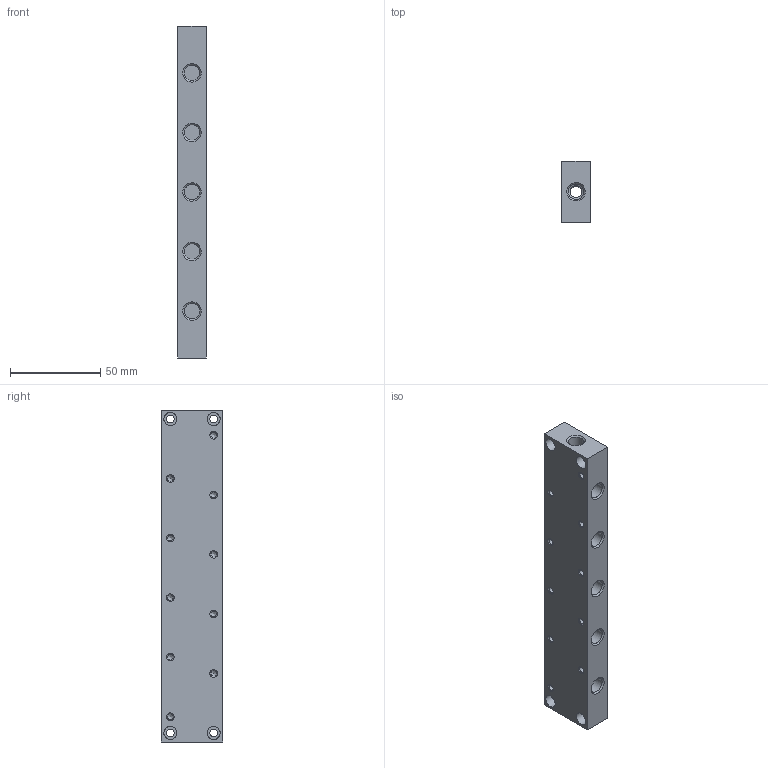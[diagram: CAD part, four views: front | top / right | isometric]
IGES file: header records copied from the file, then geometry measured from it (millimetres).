
Global section: file name: 300_08_05; native system: Autodesk Inventor 2014; preprocessor: unknown; author: A. Manieri; organization: Pneumax S.p.A.; date: 20161005.080802; units: millimetre
Bounding box: 16 x 34 x 184 mm (x, y, z)
Volume: 87878.3 mm3; surface area: 26514.9 mm2
Topology: 1 solids, 1 shells, 70 faces, 206 edges, 147 vertices
Faces by surface type: bspline 70
